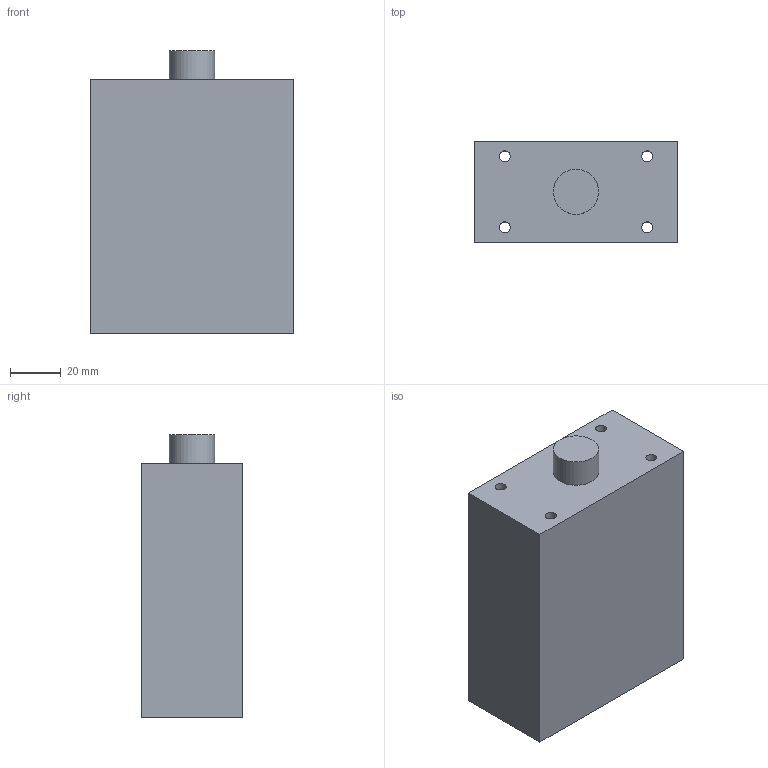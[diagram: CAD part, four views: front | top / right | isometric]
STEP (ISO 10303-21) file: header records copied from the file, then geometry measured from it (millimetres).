
FILE_DESCRIPTION(('Mechanical CAD reference from nasji.com'),'2;1');
FILE_NAME('NASJI.step','',(''),(''),'','NASJI distribution','');
FILE_SCHEMA(('AUTOMOTIVE_DESIGN { 1 0 10303 214 1 1 1 1 }'));
Length unit declared in the file: millimetre
Products named in the file (1): Open CASCADE STEP translator 7.8 12
Bounding box: 80 x 39.9 x 111.2 mm (x, y, z)
Volume: 316178.3 mm3; surface area: 36277.7 mm2
Topology: 1 solids, 1 shells, 12 faces, 27 edges, 18 vertices
Faces by surface type: plane 7, cylinder 5
Full cylindrical faces by diameter (mm): 4.3 x4, 17.8 x1
Entity records: 742 total; most frequent: CARTESIAN_POINT 160, DIRECTION 109, LINE 61, VECTOR 61, ORIENTED_EDGE 54, PCURVE 54, DEFINITIONAL_REPRESENTATION 54, EDGE_CURVE 27
